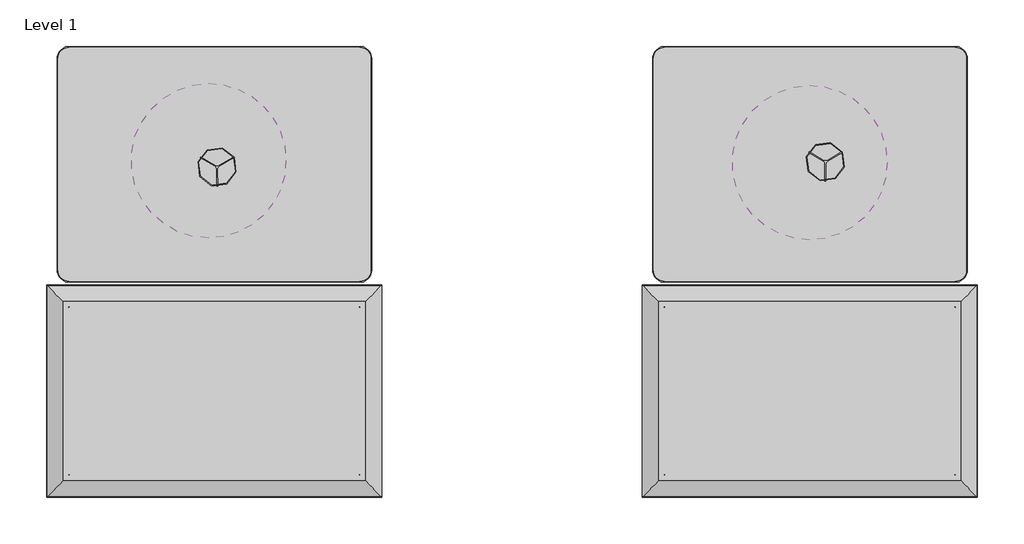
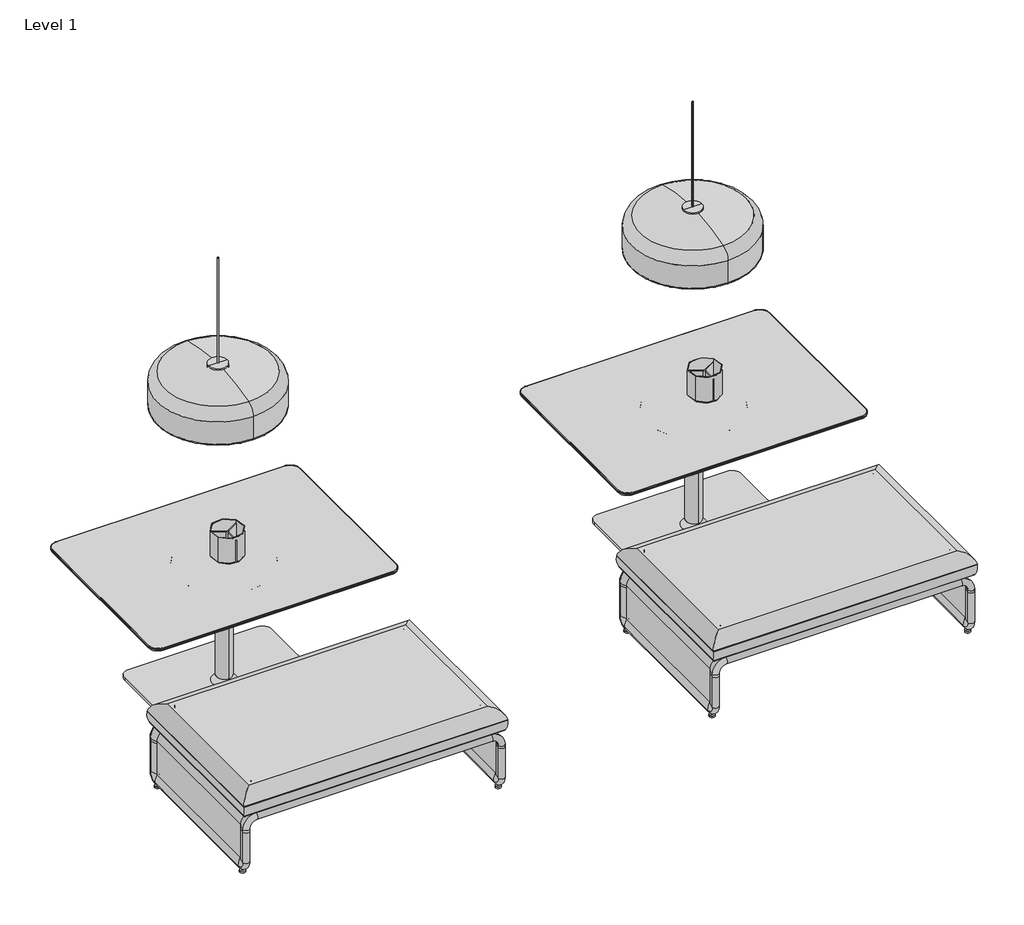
# One storey, incomplete: 8 furniture elements.
"""IFC4 building model written with IfcOpenShell, lengths in millimetres."""

from ifc_helpers import new_model, si_unit, origin, place, context, project, spatial, transform, mapped, element, save
from components import furniture_39884a35, furniture_e454bbac, steelcase_coalesse_sw_1_table_power_pod_power_pod_04608cef, two_seat_4937a690

model = new_model("IFC4")

# Units and contexts
model_context = context("Model", 3, world=origin())
ifc_project = project(units=[si_unit("LENGTHUNIT", "METRE", prefix="MILLI")], contexts=[model_context])

# Site, building, storey
site = spatial("IfcSite", under=ifc_project)
building = spatial("IfcBuilding", under=site)
storey = spatial("IfcBuildingStorey", under=building, Name="Level 1", Elevation=0.0)

# Furniture
placement = place(None, origin())
furniture_shape = furniture_39884a35(model_context)
element("IfcFurniture", 1, ObjectType="Steelcase Coalesse - Lagunitas - Table - Work : 26H x 36D x 48W", at=placement, inside=storey, context=model_context, shape_type="MappedRepresentation", body=[
    mapped(furniture_shape, transform((-39384.9148541, -192438.6228777, 0.0), x_axis=(1.0, 0.0, 0.0), y_axis=(0.0, 1.0, 0.0), z_axis=(0.0, 0.0, 1.0))),
])
element("IfcFurniture", 2, ObjectType="Steelcase Coalesse - Lagunitas - Table - Work : 26H x 36D x 48W", at=placement, inside=storey, context=model_context, shape_type="MappedRepresentation", body=[
    mapped(furniture_shape, transform((-37076.6303874, -192438.6228777, 0.0), x_axis=(1.0, 0.0, 0.0), y_axis=(0.0, 1.0, 0.0), z_axis=(0.0, 0.0, 1.0))),
])
furniture_2_shape = furniture_e454bbac(model_context)
element("IfcFurniture", 3, ObjectType="Flos - Smithfield S : Haloguen", at=placement, inside=storey, context=model_context, shape_type="MappedRepresentation", body=[
    mapped(furniture_2_shape, transform((-39046.0884614, -192770.1768969, 931.8625), x_axis=(1.0, 0.0, 0.0), y_axis=(0.0, 1.0, 0.0), z_axis=(0.0, 0.0, 1.0))),
])
element("IfcFurniture", 4, ObjectType="Flos - Smithfield S : Haloguen", at=placement, inside=storey, context=model_context, shape_type="MappedRepresentation", body=[
    mapped(furniture_2_shape, transform((-36716.4867461, -192777.8471689, 931.8625), x_axis=(1.0, 0.0, 0.0), y_axis=(0.0, 1.0, 0.0), z_axis=(0.0, 0.0, 1.0))),
])
steelcase_coalesse_sw_1_table_power_pod_power_pod_shape = steelcase_coalesse_sw_1_table_power_pod_power_pod_04608cef(model_context)
element("IfcFurniture", 5, ObjectType="Steelcase Coalesse - SW_1 - Table - Power Pod : Power Pod", at=placement, inside=storey, context=model_context, shape_type="MappedRepresentation", body=[
    mapped(steelcase_coalesse_sw_1_table_power_pod_power_pod_shape, transform((-39374.5839728, -192448.597125, 660.4), x_axis=(0.866025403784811, 0.4999999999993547, 0.0), y_axis=(-0.4999999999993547, 0.866025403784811, 0.0), z_axis=(0.0, 0.0, 1.0))),
])
element("IfcFurniture", 6, ObjectType="Steelcase Coalesse - SW_1 - Table - Power Pod : Power Pod", at=placement, inside=storey, context=model_context, shape_type="MappedRepresentation", body=[
    mapped(steelcase_coalesse_sw_1_table_power_pod_power_pod_shape, transform((-37016.6901312, -192428.753375, 660.4), x_axis=(0.866025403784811, 0.4999999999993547, 0.0), y_axis=(-0.4999999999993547, 0.866025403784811, 0.0), z_axis=(0.0, 0.0, 1.0))),
])
two_seat_shape = two_seat_4937a690(model_context)
element("IfcFurniture", 7, ObjectType="Steelcase Coalesse - Lagunitas - Seating - Bench : Two Seat", at=placement, inside=storey, context=model_context, shape_type="MappedRepresentation", body=[
    mapped(two_seat_shape, transform((-38596.7873511, -193324.4845945, 0.0), x_axis=(1.0, 0.0, 0.0), y_axis=(0.0, 1.0, 0.0), z_axis=(0.0, 0.0, 1.0))),
])
element("IfcFurniture", 8, ObjectType="Steelcase Coalesse - Lagunitas - Seating - Bench : Two Seat", at=placement, inside=storey, context=model_context, shape_type="MappedRepresentation", body=[
    mapped(two_seat_shape, transform((-36288.5028845, -193324.4845945, 0.0), x_axis=(1.0, 0.0, 0.0), y_axis=(0.0, 1.0, 0.0), z_axis=(0.0, 0.0, 1.0))),
])

save(model, "model.ifc")
